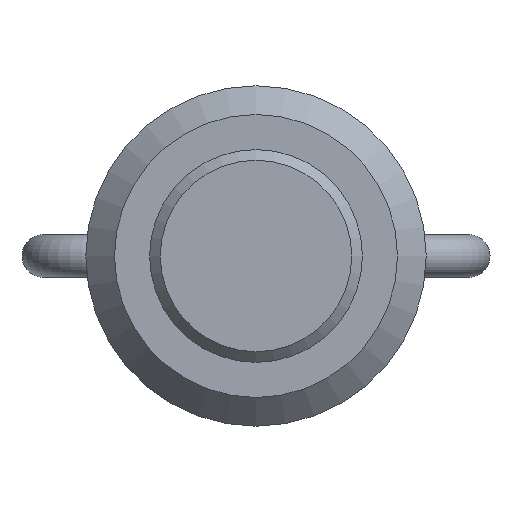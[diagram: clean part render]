
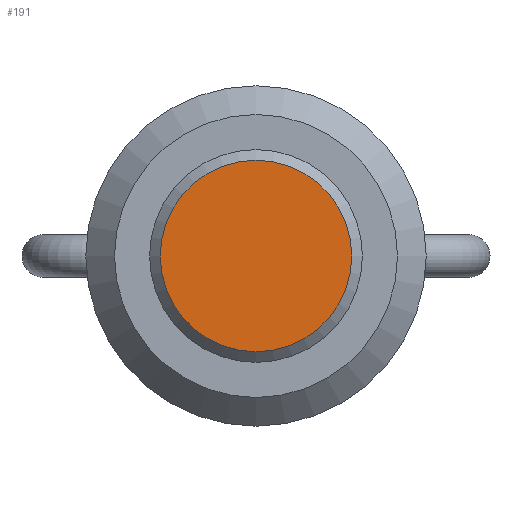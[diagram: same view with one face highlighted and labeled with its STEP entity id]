
A CAD part, front view. The second image highlights one B-rep face of the part: STEP entity #191.
In plain terms, the highlighted planar face has unit normal (0, -1, 0).
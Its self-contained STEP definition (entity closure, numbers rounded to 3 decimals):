
#191 = ADVANCED_FACE( '', ( #267 ), #268, .F. );
#267 = FACE_OUTER_BOUND( '', #374, .T. );
#268 = PLANE( '', #375 );
#374 = EDGE_LOOP( '', ( #562 ) );
#375 = AXIS2_PLACEMENT_3D( '', #563, #564, #565 );
#562 = ORIENTED_EDGE( '', *, *, #681, .T. );
#563 = CARTESIAN_POINT( '', ( 4.5, -11., 0. ) );
#564 = DIRECTION( '', ( 0., 1., 0. ) );
#565 = DIRECTION( '', ( 0., 0., 1. ) );
#681 = EDGE_CURVE( '', #765, #765, #766, .T. );
#765 = VERTEX_POINT( '', #953 );
#766 = CIRCLE( '', #954, 4.5 );
#953 = CARTESIAN_POINT( '', ( 0., -11., -4.5 ) );
#954 = AXIS2_PLACEMENT_3D( '', #1060, #1061, #1062 );
#1060 = CARTESIAN_POINT( '', ( 0., -11., 0. ) );
#1061 = DIRECTION( '', ( 0., -1., 0. ) );
#1062 = DIRECTION( '', ( 0., 0., -1. ) );
